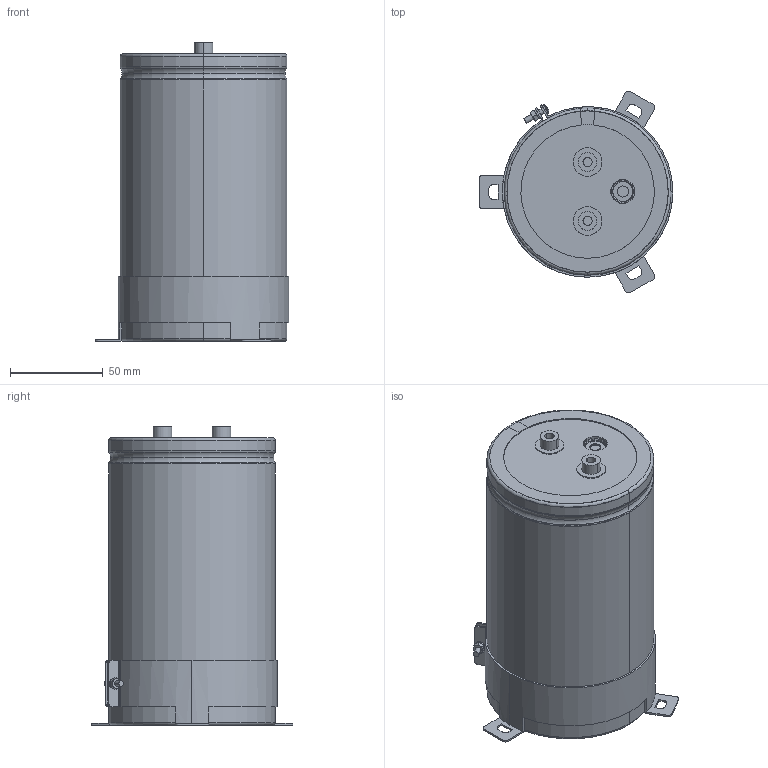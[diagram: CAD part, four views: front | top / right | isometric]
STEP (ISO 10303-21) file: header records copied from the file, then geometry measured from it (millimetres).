
FILE_DESCRIPTION(('STEP AP214'),'1');
FILE_NAME('90x155_Screw.stp','2022-03-14T08:55:53',(' '),(' '),'Spatial InterOp 3D',' ',' ');
FILE_SCHEMA(('AUTOMOTIVE_DESIGN { 1 0 10303 214 1 1 1 1 }'));
Length unit declared in the file: metre
Products named in the file (10): 90x155_Screw; Component1; Component2; Component3; Component4; Component5; Component6; Component7; Component8; Component9
Assembly tree (9 placements, depth 2):
  90x155_Screw
    Component1
    Component2
    Component3
    Component4
    Component5
    Component6
    Component7
    Component8
    Component9
Bounding box: 104.5 x 108.86 x 161 mm (x, y, z)
Volume: 988627.7 mm3; surface area: 170922.9 mm2
Topology: 9 solids, 9 shells, 352 faces, 873 edges, 551 vertices
Faces by surface type: plane 112, cylinder 110, torus 90, cone 38, sphere 2
Entity records: 11474 total; most frequent: DIRECTION 2126, CARTESIAN_POINT 1918, ORIENTED_EDGE 1746, AXIS2_PLACEMENT_3D 919, EDGE_CURVE 873, VERTEX_POINT 551, CIRCLE 511, EDGE_LOOP 380
